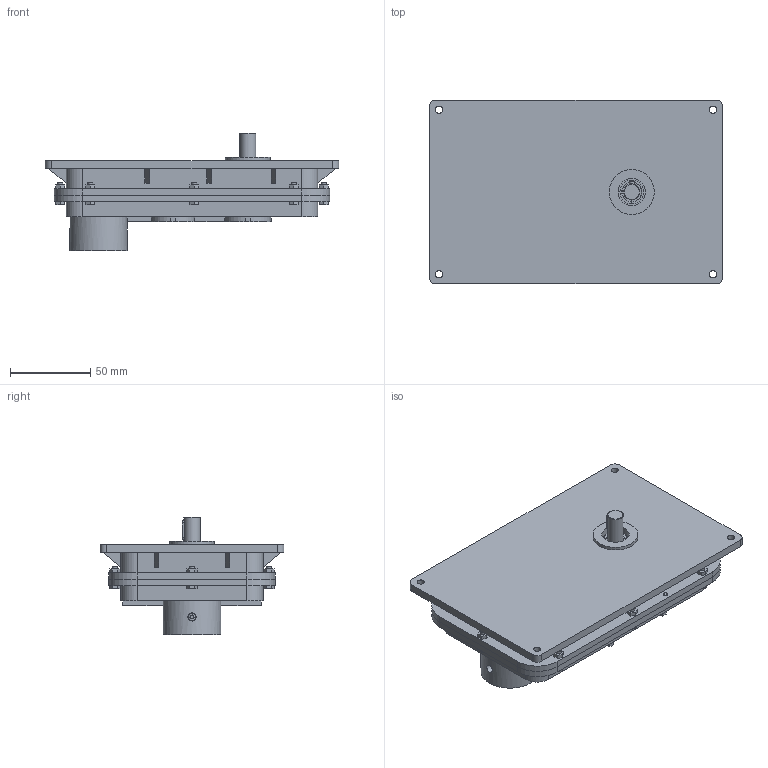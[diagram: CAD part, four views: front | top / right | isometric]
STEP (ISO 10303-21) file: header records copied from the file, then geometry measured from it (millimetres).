
FILE_DESCRIPTION(('Open CASCADE Model'),'2;1');
FILE_NAME('LP-GB-02_Gearbox_Assembly','2026-10-20T22:25:32',('Author'),( 'Open CASCADE'),'Open CASCADE STEP processor 8.0','build123d', 'Unknown');
FILE_SCHEMA(('AUTOMOTIVE_DESIGN { 1 0 10303 214 1 1 1 1 }'));
Length unit declared in the file: millimetre
Products named in the file (37): LP-GB-02_Gearbox_Assembly; 01_Housing_Front; 02_Housing_Rear; 03_Gear1_z20_m0.8; 04_Gear2_z96_m0.8; 05_Gear3_z18_m1.0; 06_Gear4_z75_m1.0; 07_Shaft_Input; 08_Shaft_Intermediate; 09_Shaft_Output; 10_Key_3x3x8_Gear2; 11_Key_4x4x10_Gear4; 12_Key_3x3x12_Output; 13_Bearing_6800ZZ_Input_Front; 14_Bearing_6800ZZ_Input_Rear; 15_Bearing_6800ZZ_Intermediate_Front; 16_Bearing_6800ZZ_Intermediate_Rear; 17_Bearing_6801ZZ_Output_Front; 18_Bearing_6801ZZ_Output_Rear; 19_Pin_D3_1; 20_Pin_D3_2; 21_Bolt_M3x12_1; 22_Bolt_M3x12_2; 23_Bolt_M3x12_3; 24_Bolt_M3x12_4; 25_Bolt_M3x12_5; 26_Bolt_M3x12_6; 27_Bolt_M3x12_7; 28_Bolt_M3x12_8; 29_Nut_M3_1; 30_Nut_M3_2; 31_Nut_M3_3; 32_Nut_M3_4; 33_Nut_M3_5; 34_Nut_M3_6; 35_Nut_M3_7; 36_Nut_M3_8
Assembly tree (36 placements, depth 2):
  LP-GB-02_Gearbox_Assembly
    01_Housing_Front
    02_Housing_Rear
    03_Gear1_z20_m0.8
    04_Gear2_z96_m0.8
    05_Gear3_z18_m1.0
    06_Gear4_z75_m1.0
    07_Shaft_Input
    08_Shaft_Intermediate
    09_Shaft_Output
    10_Key_3x3x8_Gear2
    11_Key_4x4x10_Gear4
    12_Key_3x3x12_Output
    13_Bearing_6800ZZ_Input_Front
    14_Bearing_6800ZZ_Input_Rear
    15_Bearing_6800ZZ_Intermediate_Front
    16_Bearing_6800ZZ_Intermediate_Rear
    17_Bearing_6801ZZ_Output_Front
    18_Bearing_6801ZZ_Output_Rear
    19_Pin_D3_1
    20_Pin_D3_2
    21_Bolt_M3x12_1
    22_Bolt_M3x12_2
    23_Bolt_M3x12_3
    24_Bolt_M3x12_4
    25_Bolt_M3x12_5
    26_Bolt_M3x12_6
    27_Bolt_M3x12_7
    28_Bolt_M3x12_8
    29_Nut_M3_1
    30_Nut_M3_2
    31_Nut_M3_3
    32_Nut_M3_4
    33_Nut_M3_5
    34_Nut_M3_6
    35_Nut_M3_7
    36_Nut_M3_8
Bounding box: 182.4 x 114.4 x 73 mm (x, y, z)
Volume: 318704.9 mm3; surface area: 164721.5 mm2
Topology: 36 solids, 36 shells, 1933 faces, 5311 edges, 3524 vertices
Faces by surface type: extrusion 836, cylinder 635, plane 428, cone 34
Full cylindrical faces by diameter (mm): 2.5 x3, 2.52 x2, 3 x22, 3.4 x16, 4.5 x4, 5 x2, 10 x9, 12 x16, 12.5 x3, 12.7 x8, 14 x5, 14.5 x1, 14.7 x4, 15 x1, 16 x1, 16.3 x8, 17 x1, 18 x1, 18.3 x4, 19 x8, 21 x4, 22 x2, 28 x1, 36 x1
Entity records: 186473 total; most frequent: CARTESIAN_POINT 84103, DIRECTION 16336, ORIENTED_EDGE 10622, PCURVE 10622, DEFINITIONAL_REPRESENTATION 10622, VECTOR 10233, LINE 9397, EDGE_CURVE 5311
